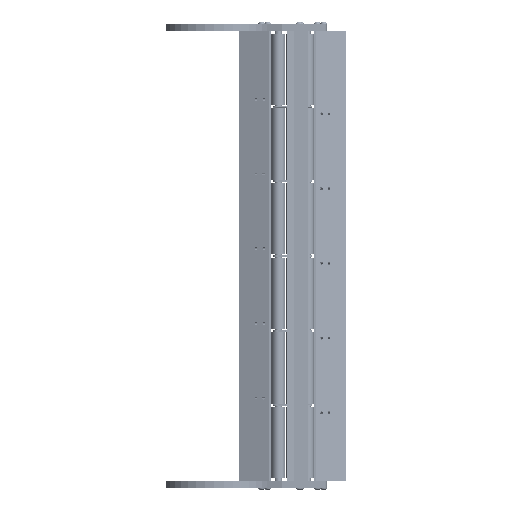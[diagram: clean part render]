
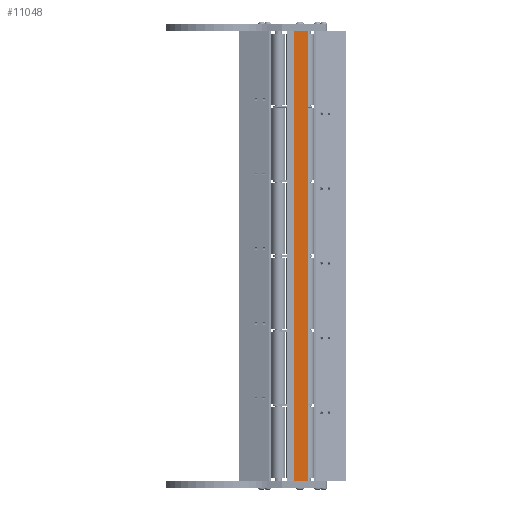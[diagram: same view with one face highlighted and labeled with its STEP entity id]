
A CAD part, front view. The second image highlights one B-rep face of the part: STEP entity #11048.
In plain terms, the highlighted planar face has unit normal (0.768, -0.641, 0) as drawn and (0, 1, 0) by its records, which use the part's own axes.
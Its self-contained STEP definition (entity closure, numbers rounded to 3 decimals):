
#979 = VERTEX_POINT ( 'NONE', #10214 ) ;
#1299 = EDGE_CURVE ( 'NONE', #5517, #4555, #4500, .T. ) ;
#2226 = CARTESIAN_POINT ( 'NONE',  ( 25., 13.9, 494. ) ) ;
#2511 = VECTOR ( 'NONE', #12378, 1000. ) ;
#3947 = VECTOR ( 'NONE', #7819, 1000. ) ;
#4435 = PLANE ( 'NONE',  #8251 ) ;
#4500 = LINE ( 'NONE', #2226, #3947 ) ;
#4555 = VERTEX_POINT ( 'NONE', #15900 ) ;
#4769 = EDGE_CURVE ( 'NONE', #4555, #979, #15196, .T. ) ;
#4884 = VECTOR ( 'NONE', #11334, 1000. ) ;
#5017 = VECTOR ( 'NONE', #9425, 1000. ) ;
#5478 = CARTESIAN_POINT ( 'NONE',  ( 25., 13.9, 494. ) ) ;
#5517 = VERTEX_POINT ( 'NONE', #14885 ) ;
#6849 = DIRECTION ( 'NONE',  ( 0., -1., 0. ) ) ;
#7455 = EDGE_CURVE ( 'NONE', #5517, #12541, #9557, .T. ) ;
#7589 = ORIENTED_EDGE ( 'NONE', *, *, #4769, .F. ) ;
#7819 = DIRECTION ( 'NONE',  ( -1., 0., 0. ) ) ;
#8251 = AXIS2_PLACEMENT_3D ( 'NONE', #5478, #6849, #10011 ) ;
#9233 = ORIENTED_EDGE ( 'NONE', *, *, #1299, .F. ) ;
#9425 = DIRECTION ( 'NONE',  ( -1., 0., 0. ) ) ;
#9557 = LINE ( 'NONE', #9809, #2511 ) ;
#9809 = CARTESIAN_POINT ( 'NONE',  ( 25., 13.9, 494. ) ) ;
#10011 = DIRECTION ( 'NONE',  ( 1., 0., 0. ) ) ;
#10214 = CARTESIAN_POINT ( 'NONE',  ( 0., 13.9, 0. ) ) ;
#10621 = LINE ( 'NONE', #16451, #5017 ) ;
#10803 = EDGE_CURVE ( 'NONE', #12541, #979, #10621, .T. ) ;
#11048 = ADVANCED_FACE ( 'NONE', ( #11071 ), #4435, .F. ) ;
#11071 = FACE_OUTER_BOUND ( 'NONE', #13682, .T. ) ;
#11334 = DIRECTION ( 'NONE',  ( 0., 0., -1. ) ) ;
#11686 = ORIENTED_EDGE ( 'NONE', *, *, #10803, .T. ) ;
#12378 = DIRECTION ( 'NONE',  ( 0., 0., -1. ) ) ;
#12399 = ORIENTED_EDGE ( 'NONE', *, *, #7455, .T. ) ;
#12541 = VERTEX_POINT ( 'NONE', #13056 ) ;
#13056 = CARTESIAN_POINT ( 'NONE',  ( 25., 13.9, 0. ) ) ;
#13682 = EDGE_LOOP ( 'NONE', ( #11686, #7589, #9233, #12399 ) ) ;
#14065 = CARTESIAN_POINT ( 'NONE',  ( 0., 13.9, 494. ) ) ;
#14885 = CARTESIAN_POINT ( 'NONE',  ( 25., 13.9, 494. ) ) ;
#15196 = LINE ( 'NONE', #14065, #4884 ) ;
#15900 = CARTESIAN_POINT ( 'NONE',  ( 0., 13.9, 494. ) ) ;
#16451 = CARTESIAN_POINT ( 'NONE',  ( 25., 13.9, 0. ) ) ;
